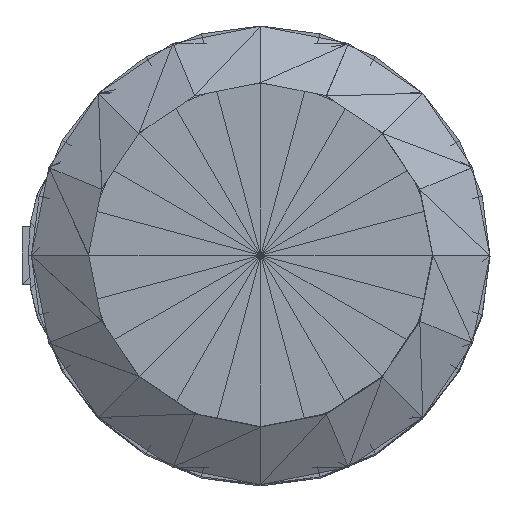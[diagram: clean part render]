
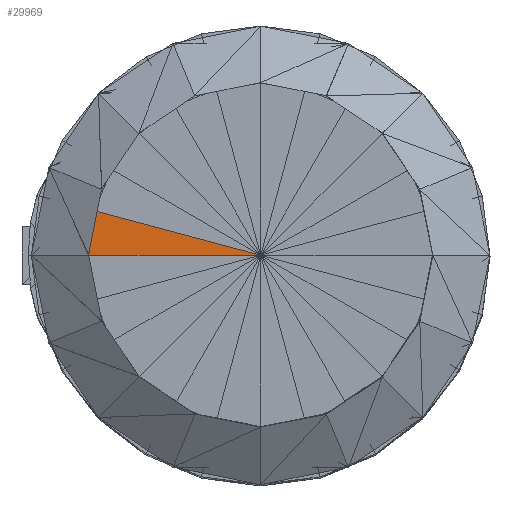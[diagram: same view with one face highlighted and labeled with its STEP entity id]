
A CAD part, top view. The second image highlights one B-rep face of the part: STEP entity #29969.
In plain terms, the highlighted planar face has unit normal (0, 0, 1).
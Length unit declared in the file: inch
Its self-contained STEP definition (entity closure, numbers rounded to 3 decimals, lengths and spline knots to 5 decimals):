
#29539=CARTESIAN_POINT('',(0.,-0.00016,0.76629));
#29540=VERTEX_POINT('',#29539);
#29929=CARTESIAN_POINT('',(-0.14062,-0.00016,0.76629));
#29930=VERTEX_POINT('',#29929);
#29938=CARTESIAN_POINT('',(-0.14063,-0.00016,0.76629));
#29939=DIRECTION('',(1.,0.,-0.));
#29940=VECTOR('',#29939,0.14063);
#29941=LINE('',#29938,#29940);
#29942=EDGE_CURVE('',#29930,#29540,#29941,.T.);
#29947=CARTESIAN_POINT('',(-0.13582,0.03623,0.7663));
#29948=DIRECTION('',(0.,0.,1.));
#29949=DIRECTION('',(1.,0.,0.));
#29950=AXIS2_PLACEMENT_3D('',#29947,#29948,#29949);
#29951=PLANE('',#29950);
#29952=CARTESIAN_POINT('',(-0.13582,0.03623,0.7663));
#29953=VERTEX_POINT('',#29952);
#29954=CARTESIAN_POINT('',(-0.14063,-0.00016,0.76629));
#29955=DIRECTION('',(0.131,0.991,0.));
#29956=VECTOR('',#29955,0.03671);
#29957=LINE('',#29954,#29956);
#29958=EDGE_CURVE('',#29930,#29953,#29957,.T.);
#29959=ORIENTED_EDGE('',*,*,#29958,.F.);
#29960=ORIENTED_EDGE('',*,*,#29942,.T.);
#29961=CARTESIAN_POINT('',(0.,-0.00016,0.76629));
#29962=DIRECTION('',(-0.966,0.259,0.));
#29963=VECTOR('',#29962,0.14062);
#29964=LINE('',#29961,#29963);
#29965=EDGE_CURVE('',#29540,#29953,#29964,.T.);
#29966=ORIENTED_EDGE('',*,*,#29965,.T.);
#29967=EDGE_LOOP('',(#29959,#29960,#29966));
#29968=FACE_BOUND('',#29967,.T.);
#29969=ADVANCED_FACE('',(#29968),#29951,.T.);
